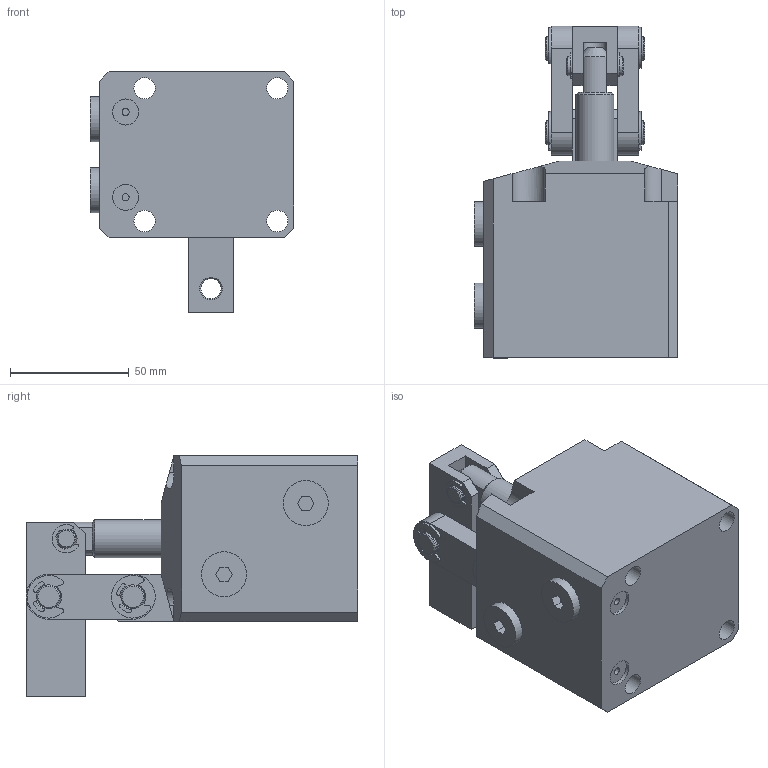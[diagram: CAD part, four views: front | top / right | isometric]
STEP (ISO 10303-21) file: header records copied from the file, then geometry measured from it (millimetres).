
FILE_DESCRIPTION(/* description */ ('STEP AP214'),/* implementation_level */ '2;1');
FILE_NAME(/* name */ 'D:\Vault_2016\Projekty\Clamptek\Hydraulic\CBLU\CBLU-45\STEP\CBLU-45GL.stp',/* time_stamp */ '2021-05-06T12:40:15+02:00',/* author */ ('user'),/* organization */ (''),/* preprocessor_version */ 'ST-DEVELOPER v18.1',/* originating_system */ 'Autodesk Inventor 2021',/* authorisation */ '');
FILE_SCHEMA (('AUTOMOTIVE_DESIGN { 1 0 10303 214 3 1 1 }'));
Length unit declared in the file: millimetre
Products named in the file (10): CBLU-45GL; 45L±¾Ìå_1_1_1; Áã¼þ3_5; Á¬¸Ë_1; 45Ñ¹°å_1; ¶ÌÏúÖá_1; ³¤ÏúÖá_1; Ð¡µ¯; ´ó¿Û; ÄÚÁù½Ç¶ÂÍ·×
îÐÂ1-4
Assembly tree (16 placements, depth 2):
  CBLU-45GL
    45L±¾Ìå_1_1_1
    Áã¼þ3_5
    Á¬¸Ë_1  x2
    45Ñ¹°å_1
    ¶ÌÏúÖá_1
    ³¤ÏúÖá_1  x2
    Ð¡µ¯  x2
    ´ó¿Û  x4
    ÄÚÁù½Ç¶ÂÍ·×
îÐÂ1-4  x2
Bounding box: 86 x 140 x 101.5 mm (x, y, z)
Volume: 451666 mm3; surface area: 86797.7 mm2
Topology: 17 solids, 17 shells, 308 faces, 731 edges, 480 vertices
Faces by surface type: plane 152, cylinder 126, cone 30
Full cylindrical faces by diameter (mm): 3 x2, 6.9 x1, 7 x1, 8 x6, 8.5 x1, 8.8 x2, 8.9 x2, 9 x6, 10 x12, 11 x2, 13 x2, 16 x2, 19 x2, 45 x2
Entity records: 5972 total; most frequent: DIRECTION 1037, CARTESIAN_POINT 949, ORIENTED_EDGE 878, EDGE_CURVE 439, AXIS2_PLACEMENT_3D 385, VERTEX_POINT 288, LINE 267, VECTOR 267
